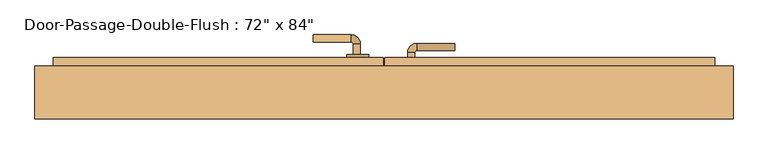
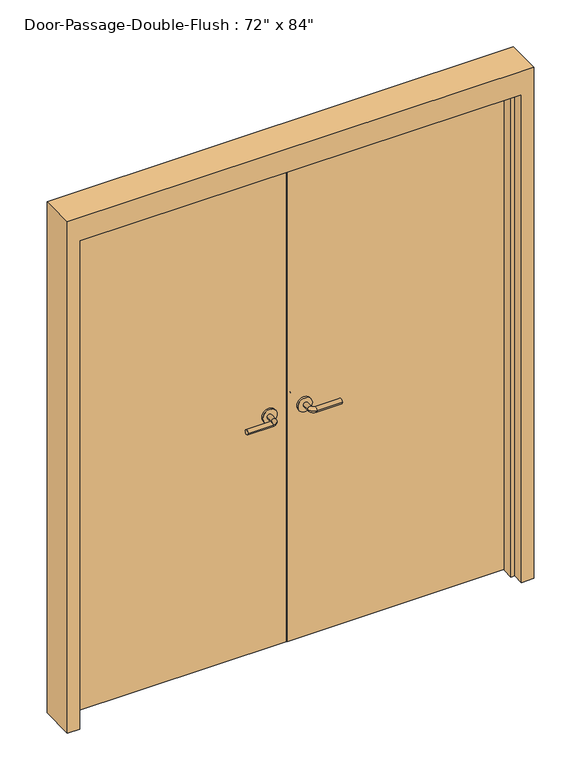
"""IFC4 building model written with IfcOpenShell, lengths in millimetres: door geometry."""

from ifc_helpers import new_model, si_unit, point, frame, frame_2d, origin, origin_with_axes, place, context, project, spatial, polyline, circle_curve, ellipse_curve, trimmed, segment, composite_curve, outline, extrude, faceted_brep, source, transform, mapped, element, save
from ifc_brep_helpers import plane_surface, cylinder_surface, revolved_surface, advanced_brep


def door_0212c12a(model_context):
    return source(origin(), model_context, "Body", "SolidModel", [
        advanced_brep(
        [(-65.009375, 6.2875, 1016.0), (-85.009375, 6.2875, 1016.0), (-65.009375, -23.7125, 1016.0), (-85.009375, -23.7125, 1016.0), (-90.009375, -28.7125, 1016.0), (-90.009375, -48.7125, 1016.0), (-195.009375, -48.7125, 1016.0), (-195.009375, -28.7125, 1016.0)],
        [
            (0, 1, circle_curve(frame((-75.009375, 6.2875, 1016.0), z_axis=(0.0, 1.0, 0.0), x_axis=(-1.0, 0.0, 0.0)), 10.0)),
            (1, 0, circle_curve(frame((-75.009375, 6.2875, 1016.0), z_axis=(0.0, 1.0, 0.0), x_axis=(-1.0, 0.0, 0.0)), 10.0)),
            (0, 2),
            (2, 3, circle_curve(frame((-75.009375, -23.7125, 1016.0), z_axis=(0.0, 1.0, 0.0), x_axis=(-1.0, 0.0, 0.0)), 10.0)),
            (3, 1),
            (3, 2, circle_curve(frame((-75.009375, -23.7125, 1016.0), z_axis=(0.0, 1.0, 0.0), x_axis=(-1.0, 0.0, 0.0)), 10.0)),
            (4, 3, circle_curve(frame((-90.009375, -23.7125, 1016.0), z_axis=(0.0, 0.0, 1.0), x_axis=(1.0, 0.0, 0.0)), 5.0)),
            (2, 5, circle_curve(frame((-90.009375, -23.7125, 1016.0), z_axis=(0.0, 0.0, -1.0), x_axis=(1.0, 0.0, 0.0)), 25.0)),
            (5, 4, circle_curve(frame((-90.009375, -38.7125, 1016.0), z_axis=(1.0, 0.0, 0.0), x_axis=(0.0, 1.0, 0.0)), 10.0)),
            (4, 5, circle_curve(frame((-90.009375, -38.7125, 1016.0), z_axis=(1.0, 0.0, 0.0), x_axis=(0.0, 1.0, 0.0)), 10.0)),
            (6, 7, circle_curve(frame((-195.009375, -38.7125, 1016.0), z_axis=(-1.0, 0.0, 0.0), x_axis=(0.0, 1.0, 0.0)), 10.0)),
            (7, 6, circle_curve(frame((-195.009375, -38.7125, 1016.0), z_axis=(-1.0, 0.0, 0.0), x_axis=(0.0, 1.0, 0.0)), 10.0)),
            (5, 6),
            (7, 4),
        ],
        [
            plane_surface(frame((-75.009375, 6.2875, 1016.0), z_axis=(0.0, 1.0, 0.0), x_axis=(0.0, 0.0, 1.0))),
            cylinder_surface(frame((-75.009375, 6.2875, 1016.0), z_axis=(0.0, 1.0, 0.0), x_axis=(-1.0, 0.0, 0.0)), 10.0),
            revolved_surface(trimmed(ellipse_curve(frame((-75.009375, -23.7125, 1016.0), z_axis=(0.0, 1.0, 0.0), x_axis=(-1.0, 0.0, 0.0)), 10.0, 10.0), [point((-65.009375, -23.7125, 1016.0))], [point((-85.009375, -23.7125, 1016.0))], True, "CARTESIAN"), (-90.009375, -23.7125, 1016.0), (0.0, 0.0, -1.0)),
            revolved_surface(trimmed(ellipse_curve(frame((-75.009375, -23.7125, 1016.0), z_axis=(0.0, 1.0, 0.0), x_axis=(-1.0, 0.0, 0.0)), 10.0, 10.0), [point((-85.009375, -23.7125, 1016.0))], [point((-65.009375, -23.7125, 1016.0))], True, "CARTESIAN"), (-90.009375, -23.7125, 1016.0), (0.0, 0.0, -1.0)),
            plane_surface(frame((-195.009375, -38.7125, 1016.0), z_axis=(-1.0, 0.0, 0.0), x_axis=(0.0, 0.0, 1.0))),
            cylinder_surface(frame((-90.009375, -38.7125, 1016.0), z_axis=(1.0, 0.0, 0.0), x_axis=(0.0, 1.0, 0.0)), 10.0),
        ],
        [
            (0, [[1, 2]]),
            (1, [[-1, 3, 4, 5]]),
            (1, [[-2, -5, 6, -3]]),
            (2, [[7, -4, 8, 9]]),
            (3, [[-8, -6, -7, 10]]),
            (4, [[11, 12]]),
            (5, [[-9, 13, -12, 14]]),
            (5, [[-10, -14, -11, -13]]),
        ],
    ),
        extrude(outline(composite_curve([segment(trimmed(circle_curve(frame_2d((1016.0, -72.509375)), 30.0), [point((1016.0, -42.509375))], [point((1016.0, -102.509375))], False, "CARTESIAN"), True, "CONTINUOUS"), segment(trimmed(circle_curve(frame_2d((1016.0, -72.509375)), 30.0), [point((1016.0, -102.509375))], [point((1016.0, -42.509375))], False, "CARTESIAN"), True, "CONTINUOUS")], self_intersect=False)), frame((0.0, 6.2875, 0.0), z_axis=(0.0, 1.0, 0.0), x_axis=(0.0, 0.0, 1.0)), (0.0, 0.0, 1.0), 8.0),
        advanced_brep(
        [(-65.009375, 90.55, 1016.0), (-85.009375, 90.55, 1016.0), (-85.009375, 120.55, 1016.0), (-65.009375, 120.55, 1016.0), (-90.009375, 125.55, 1016.0), (-90.009375, 145.55, 1016.0), (-195.009375, 145.55, 1016.0), (-195.009375, 125.55, 1016.0)],
        [
            (0, 1, circle_curve(frame((-75.009375, 90.55, 1016.0), z_axis=(0.0, -1.0, 0.0), x_axis=(-1.0, 0.0, 0.0)), 10.0)),
            (1, 0, circle_curve(frame((-75.009375, 90.55, 1016.0), z_axis=(0.0, -1.0, 0.0), x_axis=(-1.0, 0.0, 0.0)), 10.0)),
            (1, 2),
            (2, 3, circle_curve(frame((-75.009375, 120.55, 1016.0), z_axis=(0.0, -1.0, 0.0), x_axis=(-1.0, 0.0, 0.0)), 10.0)),
            (3, 0),
            (3, 2, circle_curve(frame((-75.009375, 120.55, 1016.0), z_axis=(0.0, -1.0, 0.0), x_axis=(-1.0, 0.0, 0.0)), 10.0)),
            (4, 5, circle_curve(frame((-90.009375, 135.55, 1016.0), z_axis=(1.0, 0.0, 0.0), x_axis=(0.0, -1.0, 0.0)), 10.0)),
            (5, 3, circle_curve(frame((-90.009375, 120.55, 1016.0), z_axis=(0.0, 0.0, -1.0), x_axis=(1.0, 0.0, 0.0)), 25.0)),
            (2, 4, circle_curve(frame((-90.009375, 120.55, 1016.0), z_axis=(0.0, 0.0, 1.0), x_axis=(1.0, 0.0, 0.0)), 5.0)),
            (5, 4, circle_curve(frame((-90.009375, 135.55, 1016.0), z_axis=(1.0, 0.0, 0.0), x_axis=(0.0, -1.0, 0.0)), 10.0)),
            (6, 7, circle_curve(frame((-195.009375, 135.55, 1016.0), z_axis=(-1.0, 0.0, 0.0), x_axis=(0.0, -1.0, 0.0)), 10.0)),
            (7, 6, circle_curve(frame((-195.009375, 135.55, 1016.0), z_axis=(-1.0, 0.0, 0.0), x_axis=(0.0, -1.0, 0.0)), 10.0)),
            (4, 7),
            (6, 5),
        ],
        [
            plane_surface(frame((-75.009375, 90.55, 1016.0), z_axis=(0.0, -1.0, 0.0), x_axis=(0.0, 0.0, 1.0))),
            cylinder_surface(frame((-75.009375, 90.55, 1016.0), z_axis=(0.0, -1.0, 0.0), x_axis=(-1.0, 0.0, 0.0)), 10.0),
            revolved_surface(trimmed(ellipse_curve(frame((-75.009375, 120.55, 1016.0), z_axis=(0.0, 1.0, 0.0), x_axis=(-1.0, 0.0, 0.0)), 10.0, 10.0), [point((-65.009375, 120.55, 1016.0))], [point((-85.009375, 120.55, 1016.0))], True, "CARTESIAN"), (-90.009375, 120.55, 1016.0), (0.0, 0.0, -1.0)),
            revolved_surface(trimmed(ellipse_curve(frame((-75.009375, 120.55, 1016.0), z_axis=(0.0, 1.0, 0.0), x_axis=(-1.0, 0.0, 0.0)), 10.0, 10.0), [point((-85.009375, 120.55, 1016.0))], [point((-65.009375, 120.55, 1016.0))], True, "CARTESIAN"), (-90.009375, 120.55, 1016.0), (0.0, 0.0, -1.0)),
            plane_surface(frame((-195.009375, 135.55, 1016.0), z_axis=(-1.0, 0.0, 0.0), x_axis=(0.0, 0.0, 1.0))),
            cylinder_surface(frame((-90.009375, 135.55, 1016.0), z_axis=(1.0, 0.0, 0.0), x_axis=(0.0, -1.0, 0.0)), 10.0),
        ],
        [
            (0, [[1, 2]]),
            (1, [[3, 4, 5, -2]]),
            (1, [[-5, 6, -3, -1]]),
            (2, [[7, 8, -4, 9]]),
            (3, [[10, -9, -6, -8]]),
            (4, [[11, 12]]),
            (5, [[13, -11, 14, -7]]),
            (5, [[-14, -12, -13, -10]]),
        ],
    ),
        extrude(outline(composite_curve([segment(trimmed(circle_curve(frame_2d((1016.0, -72.509375)), 30.0), [point((1016.0, -42.509375))], [point((1016.0, -102.509375))], False, "CARTESIAN"), True, "CONTINUOUS"), segment(trimmed(circle_curve(frame_2d((1016.0, -72.509375)), 30.0), [point((1016.0, -102.509375))], [point((1016.0, -42.509375))], False, "CARTESIAN"), True, "CONTINUOUS")], self_intersect=False)), frame((0.0, 82.55, 0.0), z_axis=(0.0, 1.0, 0.0), x_axis=(0.0, 0.0, 1.0)), (0.0, 0.0, 1.0), 8.0),
        advanced_brep(
        [(65.009375, 6.2875, 1016.0), (85.009375, 6.2875, 1016.0), (85.009375, -23.7125, 1016.0), (65.009375, -23.7125, 1016.0), (90.009375, -28.7125, 1016.0), (90.009375, -48.7125, 1016.0), (195.009375, -48.7125, 1016.0), (195.009375, -28.7125, 1016.0)],
        [
            (0, 1, circle_curve(frame((75.009375, 6.2875, 1016.0), z_axis=(0.0, 1.0, 0.0), x_axis=(1.0, 0.0, 0.0)), 10.0)),
            (1, 0, circle_curve(frame((75.009375, 6.2875, 1016.0), z_axis=(0.0, 1.0, 0.0), x_axis=(1.0, 0.0, 0.0)), 10.0)),
            (1, 2),
            (2, 3, circle_curve(frame((75.009375, -23.7125, 1016.0), z_axis=(0.0, 1.0, 0.0), x_axis=(1.0, 0.0, 0.0)), 10.0)),
            (3, 0),
            (3, 2, circle_curve(frame((75.009375, -23.7125, 1016.0), z_axis=(0.0, 1.0, 0.0), x_axis=(1.0, 0.0, 0.0)), 10.0)),
            (4, 5, circle_curve(frame((90.009375, -38.7125, 1016.0), z_axis=(-1.0, 0.0, 0.0), x_axis=(0.0, 1.0, 0.0)), 10.0)),
            (5, 3, circle_curve(frame((90.009375, -23.7125, 1016.0), z_axis=(0.0, 0.0, -1.0), x_axis=(-1.0, 0.0, 0.0)), 25.0)),
            (2, 4, circle_curve(frame((90.009375, -23.7125, 1016.0), z_axis=(0.0, 0.0, 1.0), x_axis=(-1.0, 0.0, 0.0)), 5.0)),
            (5, 4, circle_curve(frame((90.009375, -38.7125, 1016.0), z_axis=(-1.0, 0.0, 0.0), x_axis=(0.0, 1.0, 0.0)), 10.0)),
            (6, 7, circle_curve(frame((195.009375, -38.7125, 1016.0), z_axis=(1.0, 0.0, 0.0), x_axis=(0.0, 1.0, 0.0)), 10.0)),
            (7, 6, circle_curve(frame((195.009375, -38.7125, 1016.0), z_axis=(1.0, 0.0, 0.0), x_axis=(0.0, 1.0, 0.0)), 10.0)),
            (4, 7),
            (6, 5),
        ],
        [
            plane_surface(frame((75.009375, 6.2875, 1016.0), z_axis=(0.0, 1.0, 0.0), x_axis=(0.0, 0.0, 1.0))),
            cylinder_surface(frame((75.009375, 6.2875, 1016.0), z_axis=(0.0, 1.0, 0.0), x_axis=(1.0, 0.0, 0.0)), 10.0),
            revolved_surface(trimmed(ellipse_curve(frame((75.009375, -23.7125, 1016.0), z_axis=(0.0, -1.0, 0.0), x_axis=(1.0, 0.0, 0.0)), 10.0, 10.0), [point((65.009375, -23.7125, 1016.0))], [point((85.009375, -23.7125, 1016.0))], True, "CARTESIAN"), (90.009375, -23.7125, 1016.0), (0.0, 0.0, -1.0)),
            revolved_surface(trimmed(ellipse_curve(frame((75.009375, -23.7125, 1016.0), z_axis=(0.0, -1.0, 0.0), x_axis=(1.0, 0.0, 0.0)), 10.0, 10.0), [point((85.009375, -23.7125, 1016.0))], [point((65.009375, -23.7125, 1016.0))], True, "CARTESIAN"), (90.009375, -23.7125, 1016.0), (0.0, 0.0, -1.0)),
            plane_surface(frame((195.009375, -38.7125, 1016.0), z_axis=(1.0, 0.0, 0.0), x_axis=(0.0, 0.0, 1.0))),
            cylinder_surface(frame((90.009375, -38.7125, 1016.0), z_axis=(-1.0, 0.0, 0.0), x_axis=(0.0, 1.0, 0.0)), 10.0),
        ],
        [
            (0, [[1, 2]]),
            (1, [[3, 4, 5, -2]]),
            (1, [[-5, 6, -3, -1]]),
            (2, [[7, 8, -4, 9]]),
            (3, [[10, -9, -6, -8]]),
            (4, [[11, 12]]),
            (5, [[13, -11, 14, -7]]),
            (5, [[-14, -12, -13, -10]]),
        ],
    ),
        extrude(outline(composite_curve([segment(trimmed(circle_curve(frame_2d((1016.0, 72.509375)), 30.0), [point((1016.0, 42.509375))], [point((1016.0, 102.509375))], False, "CARTESIAN"), True, "CONTINUOUS"), segment(trimmed(circle_curve(frame_2d((1016.0, 72.509375)), 30.0), [point((1016.0, 102.509375))], [point((1016.0, 42.509375))], False, "CARTESIAN"), True, "CONTINUOUS")], self_intersect=False)), frame((0.0, 6.2875, 0.0), z_axis=(0.0, 1.0, 0.0), x_axis=(0.0, 0.0, 1.0)), (0.0, 0.0, 1.0), 8.0),
        advanced_brep(
        [(65.009375, 66.7375, 1016.0), (85.009375, 66.7375, 1016.0), (65.009375, 96.7375, 1016.0), (85.009375, 96.7375, 1016.0), (90.009375, 101.7375, 1016.0), (90.009375, 121.7375, 1016.0), (195.009375, 121.7375, 1016.0), (195.009375, 101.7375, 1016.0)],
        [
            (0, 1, circle_curve(frame((75.009375, 66.7375, 1016.0), z_axis=(0.0, -1.0, 0.0), x_axis=(1.0, 0.0, 0.0)), 10.0)),
            (1, 0, circle_curve(frame((75.009375, 66.7375, 1016.0), z_axis=(0.0, -1.0, 0.0), x_axis=(1.0, 0.0, 0.0)), 10.0)),
            (0, 2),
            (2, 3, circle_curve(frame((75.009375, 96.7375, 1016.0), z_axis=(0.0, -1.0, 0.0), x_axis=(1.0, 0.0, 0.0)), 10.0)),
            (3, 1),
            (3, 2, circle_curve(frame((75.009375, 96.7375, 1016.0), z_axis=(0.0, -1.0, 0.0), x_axis=(1.0, 0.0, 0.0)), 10.0)),
            (4, 3, circle_curve(frame((90.009375, 96.7375, 1016.0), z_axis=(0.0, 0.0, 1.0), x_axis=(-1.0, 0.0, 0.0)), 5.0)),
            (2, 5, circle_curve(frame((90.009375, 96.7375, 1016.0), z_axis=(0.0, 0.0, -1.0), x_axis=(-1.0, 0.0, 0.0)), 25.0)),
            (5, 4, circle_curve(frame((90.009375, 111.7375, 1016.0), z_axis=(-1.0, 0.0, 0.0), x_axis=(0.0, -1.0, 0.0)), 10.0)),
            (4, 5, circle_curve(frame((90.009375, 111.7375, 1016.0), z_axis=(-1.0, 0.0, 0.0), x_axis=(0.0, -1.0, 0.0)), 10.0)),
            (6, 7, circle_curve(frame((195.009375, 111.7375, 1016.0), z_axis=(1.0, 0.0, 0.0), x_axis=(0.0, -1.0, 0.0)), 10.0)),
            (7, 6, circle_curve(frame((195.009375, 111.7375, 1016.0), z_axis=(1.0, 0.0, 0.0), x_axis=(0.0, -1.0, 0.0)), 10.0)),
            (5, 6),
            (7, 4),
        ],
        [
            plane_surface(frame((75.009375, 66.7375, 1016.0), z_axis=(0.0, -1.0, 0.0), x_axis=(0.0, 0.0, 1.0))),
            cylinder_surface(frame((75.009375, 66.7375, 1016.0), z_axis=(0.0, -1.0, 0.0), x_axis=(1.0, 0.0, 0.0)), 10.0),
            revolved_surface(trimmed(ellipse_curve(frame((75.009375, 96.7375, 1016.0), z_axis=(0.0, -1.0, 0.0), x_axis=(1.0, 0.0, 0.0)), 10.0, 10.0), [point((65.009375, 96.7375, 1016.0))], [point((85.009375, 96.7375, 1016.0))], True, "CARTESIAN"), (90.009375, 96.7375, 1016.0), (0.0, 0.0, -1.0)),
            revolved_surface(trimmed(ellipse_curve(frame((75.009375, 96.7375, 1016.0), z_axis=(0.0, -1.0, 0.0), x_axis=(1.0, 0.0, 0.0)), 10.0, 10.0), [point((85.009375, 96.7375, 1016.0))], [point((65.009375, 96.7375, 1016.0))], True, "CARTESIAN"), (90.009375, 96.7375, 1016.0), (0.0, 0.0, -1.0)),
            plane_surface(frame((195.009375, 111.7375, 1016.0), z_axis=(1.0, 0.0, 0.0), x_axis=(0.0, 0.0, 1.0))),
            cylinder_surface(frame((90.009375, 111.7375, 1016.0), z_axis=(-1.0, 0.0, 0.0), x_axis=(0.0, -1.0, 0.0)), 10.0),
        ],
        [
            (0, [[1, 2]]),
            (1, [[-1, 3, 4, 5]]),
            (1, [[-2, -5, 6, -3]]),
            (2, [[7, -4, 8, 9]]),
            (3, [[-8, -6, -7, 10]]),
            (4, [[11, 12]]),
            (5, [[-9, 13, -12, 14]]),
            (5, [[-10, -14, -11, -13]]),
        ],
    ),
        extrude(outline(composite_curve([segment(trimmed(circle_curve(frame_2d((1016.0, 72.509375)), 30.0), [point((1016.0, 42.509375))], [point((1016.0, 102.509375))], False, "CARTESIAN"), True, "CONTINUOUS"), segment(trimmed(circle_curve(frame_2d((1016.0, 72.509375)), 30.0), [point((1016.0, 102.509375))], [point((1016.0, 42.509375))], False, "CARTESIAN"), True, "CONTINUOUS")], self_intersect=False)), frame((0.0, 58.7375, 0.0), z_axis=(0.0, 1.0, 0.0), x_axis=(0.0, 0.0, 1.0)), (0.0, 0.0, 1.0), 8.0),
        extrude(outline(polyline([(914.4, 14.2875), (1.5875, 14.2875), (1.5875, 82.55), (914.4, 82.55), (914.4, 14.2875)])), origin_with_axes(), (0.0, 0.0, 1.0), 2133.6),
        extrude(outline(polyline([(-1.5875, 14.2875), (-914.4, 14.2875), (-914.4, 82.55), (-1.5875, 82.55), (-1.5875, 14.2875)])), origin_with_axes(), (0.0, 0.0, 1.0), 2133.6),
        faceted_brep([(914.4, 9.525, 0.0), (914.4, 58.7375, 0.0), (965.2, 58.7375, 0.0), (965.2, -87.3125, 0.0), (914.4, -87.3125, 0.0), (914.4, -38.1, 0.0), (898.525, -38.1, 0.0), (898.525, 9.525, 0.0), (914.4, 9.525, 2133.6), (914.4, 58.7375, 2133.6), (-914.4, 58.7375, 2133.6), (-914.4, 58.7375, 0.0), (-965.2, 58.7375, 0.0), (-965.2, 58.7375, 2235.2), (965.2, 58.7375, 2235.2), (965.2, -87.3125, 2235.2), (-965.2, -87.3125, 2235.2), (-965.2, -87.3125, 0.0), (-914.4, -87.3125, 0.0), (-914.4, -87.3125, 2133.6), (914.4, -87.3125, 2133.6), (914.4, -38.1, 2133.6), (-914.4, -38.1, 2133.6), (-914.4, -38.1, 0.0), (-898.525, -38.1, 0.0), (-898.525, -38.1, 2117.725), (898.525, -38.1, 2117.725), (898.525, 9.525, 2117.725), (-898.525, 9.525, 2117.725), (-898.525, 9.525, 0.0), (-914.4, 9.525, 0.0), (-914.4, 9.525, 2133.6)], [[[0, 1, 2, 3, 4, 5, 6, 7]], [[1, 0, 8, 9]], [[2, 1, 9, 10, 11, 12, 13, 14]], [[3, 2, 14, 15]], [[4, 3, 15, 16, 17, 18, 19, 20]], [[5, 4, 20, 21]], [[6, 5, 21, 22, 23, 24, 25, 26]], [[7, 6, 26, 27]], [[0, 7, 27, 28, 29, 30, 31, 8]], [[9, 8, 31, 10]], [[20, 19, 22, 21]], [[26, 25, 28, 27]], [[12, 11, 30, 29, 24, 23, 18, 17]], [[11, 10, 31, 30]], [[13, 12, 17, 16]], [[19, 18, 23, 22]], [[25, 24, 29, 28]], [[15, 14, 13, 16]]]),
    ])


if __name__ == "__main__":
    model = new_model("IFC4")
    model_context = context("Model", 3, world=origin())
    ifc_project = project(units=[si_unit("LENGTHUNIT", "METRE", prefix="MILLI")], contexts=[model_context])
    site = spatial("IfcSite", under=ifc_project)
    building = spatial("IfcBuilding", under=site)
    placement = place(None, origin())
    door_shape = door_0212c12a(model_context)
    element("IfcDoor", 1, ObjectType="Door-Passage-Double-Flush : 72\" x 84\"", at=placement, inside=building, context=model_context, shape_type="MappedRepresentation", body=[
        mapped(door_shape, transform((0.0, 0.0, 0.0), x_axis=(1.0, 0.0, 0.0), y_axis=(0.0, 1.0, 0.0), z_axis=(0.0, 0.0, 1.0))),
    ])
    save(model, "model.ifc")
